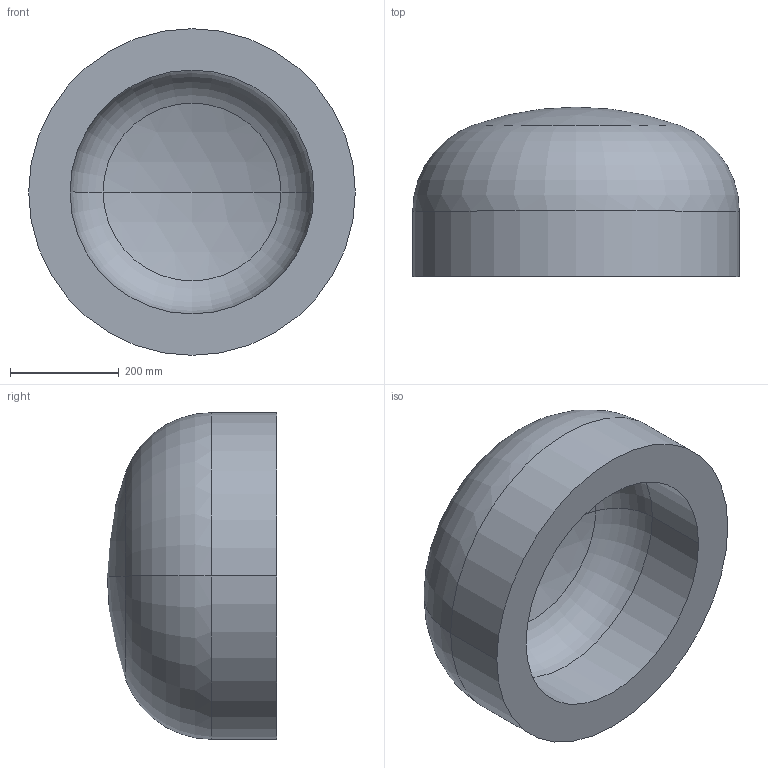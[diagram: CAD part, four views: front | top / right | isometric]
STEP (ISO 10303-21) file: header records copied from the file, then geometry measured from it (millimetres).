
FILE_DESCRIPTION (( 'STEP AP203' ), '1' );
FILE_NAME ('DIN 28013 Korbbogenform_-_Boden DIN 28013 - 600 x 120 - I - s=76.step', '2016-07-01T08:03:02', ( '' ), ( '' ), 'SwSTEP 2.0', 'SolidWorks 2013', '' );
FILE_SCHEMA (( 'CONFIG_CONTROL_DESIGN' ));
Length unit declared in the file: millimetre
Products named in the file (1): DIN 28013 Korbbogenform_-_Boden DIN 28013 - 600 x 120 - I - s=76
Bounding box: 600 x 311.14 x 600 mm (x, y, z)
Volume: 40501779.4 mm3; surface area: 1203044.2 mm2
Topology: 1 solids, 1 shells, 13 faces, 24 edges, 14 vertices
Faces by surface type: torus 4, cylinder 4, sphere 4, plane 1
Entity records: 407 total; most frequent: DIRECTION 72, CARTESIAN_POINT 52, ORIENTED_EDGE 48, AXIS2_PLACEMENT_3D 34, EDGE_CURVE 24, CIRCLE 20, EDGE_LOOP 14, VERTEX_POINT 14
